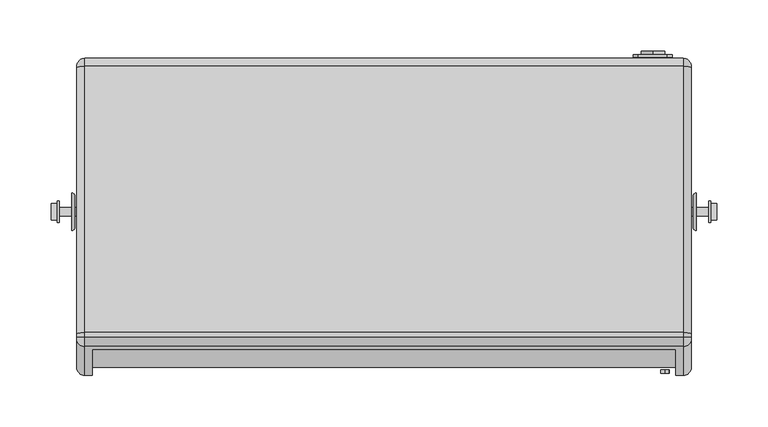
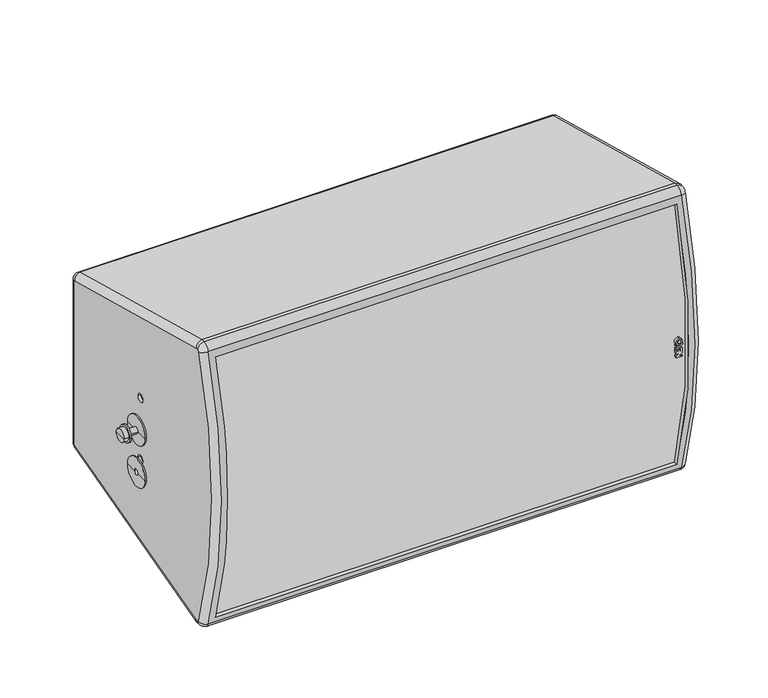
"""IFC4 building model written with IfcOpenShell, lengths in millimetres: proxy geometry, ePS12-HBRK600-SHM : ePS12-HBRK600-SHM."""

from ifc_helpers import new_model, si_unit, point, frame, frame_2d, origin, place, context, project, spatial, polyline, circle_curve, ellipse_curve, trimmed, segment, composite_curve, outline, extrude, source, transform, mapped, element, save
from ifc_brep_helpers import plane_surface, cylinder_surface, revolved_surface, advanced_brep


def generic_models_7c8fd679(model_context):
    return source(origin(), model_context, "Body", "SolidModel", [
        extrude(outline(polyline([(294.5649064, 270.5590531), (294.5649064, 277.8388202), (296.4572736, 277.8388202), (296.4572736, 273.6734899), (299.2323706, 277.8388202), (306.0832803, 277.8388202), (307.4018526, 275.963849), (306.3384755, 274.3643156), (304.9689329, 276.2361557), (301.9353036, 276.2361557), (301.9353036, 274.9818684), (304.2184164, 274.9818684), (304.2184164, 273.3791381), (301.9353036, 273.3791381), (301.9353036, 272.1626349), (304.3423782, 272.1626349), (304.3423782, 271.3626349), (303.8087195, 270.5599046), (299.5403435, 270.5599046), (299.5306519, 275.0099607), (296.5913857, 270.5590531), (294.5649064, 270.5590531)])), frame((0.0, -157.930519, 0.0), z_axis=(0.0, 1.0, 0.0), x_axis=(0.0, 0.0, 1.0)), (0.0, 0.0, 1.0), 3.5087945),
        extrude(outline(polyline([(304.4500346, 270.5590531), (309.9286538, 278.8), (312.1218565, 278.8), (306.6432373, 270.5590531), (304.4500346, 270.5590531)])), frame((0.0, -157.930519, 0.0), z_axis=(0.0, 1.0, 0.0), x_axis=(0.0, 0.0, 1.0)), (0.0, 0.0, 1.0), 3.5087945),
        extrude(outline(polyline([(311.1906687, 270.5590531), (308.8638781, 270.5590531), (308.1160838, 271.8270101), (309.2003096, 273.457904), (311.1906687, 270.5590531)])), frame((0.0, -157.930519, 0.0), z_axis=(0.0, 1.0, 0.0), x_axis=(0.0, 0.0, 1.0)), (0.0, 0.0, 1.0), 3.5087945),
        extrude(outline(composite_curve([segment(trimmed(circle_curve(frame_2d((314.5762799, 274.2298911)), 3.9406238), [point((310.635656, 274.2298911))], [point((318.5169037, 274.2298911))], False, "CARTESIAN"), True, "CONTINUOUS"), segment(trimmed(circle_curve(frame_2d((314.5762799, 274.2298911)), 3.9406238), [point((318.5169037, 274.2298911))], [point((310.635656, 274.2298911))], False, "CARTESIAN"), True, "CONTINUOUS")], self_intersect=False), holes=[composite_curve([segment(trimmed(circle_curve(frame_2d((314.5762799, 274.2298911)), 2.0681078), [point((312.5081721, 274.2298911))], [point((316.6443876, 274.2298911))], True, "CARTESIAN"), True, "CONTINUOUS"), segment(trimmed(circle_curve(frame_2d((314.5762799, 274.2298911)), 2.0681078), [point((316.6443876, 274.2298911))], [point((312.5081721, 274.2298911))], True, "CARTESIAN"), True, "CONTINUOUS")], self_intersect=False)]), frame((0.0, -157.930519, 0.0), z_axis=(0.0, 1.0, 0.0), x_axis=(0.0, 0.0, 1.0)), (0.0, 0.0, 1.0), 3.5087945),
        extrude(outline(composite_curve([segment(trimmed(circle_curve(frame_2d((336.5012591, 262.5)), 11.4515227), [point((347.9527818, 262.5))], [point((325.0497365, 262.5))], False, "CARTESIAN"), True, "CONTINUOUS"), segment(trimmed(circle_curve(frame_2d((336.5012591, 262.5)), 11.4515227), [point((325.0497365, 262.5))], [point((347.9527818, 262.5))], False, "CARTESIAN"), True, "CONTINUOUS")], self_intersect=False), holes=[composite_curve([segment(trimmed(circle_curve(frame_2d((336.5012591, 262.5)), 5.0), [point((341.5012591, 262.5))], [point((331.5012591, 262.5))], True, "CARTESIAN"), True, "CONTINUOUS"), segment(trimmed(circle_curve(frame_2d((336.5012591, 262.5)), 5.0), [point((331.5012591, 262.5))], [point((341.5012591, 262.5))], True, "CARTESIAN"), True, "CONTINUOUS")], self_intersect=False)]), frame((0.0, 153.5947354, 0.0), z_axis=(0.0, 1.0, 0.0), x_axis=(0.0, 0.0, 1.0)), (0.0, 0.0, 1.0), 3.4052646),
        extrude(outline(composite_curve([segment(trimmed(circle_curve(frame_2d((276.5012591, 262.5)), 11.4515227), [point((287.9527818, 262.5))], [point((265.0497365, 262.5))], False, "CARTESIAN"), True, "CONTINUOUS"), segment(trimmed(circle_curve(frame_2d((276.5012591, 262.5)), 11.4515227), [point((265.0497365, 262.5))], [point((287.9527818, 262.5))], False, "CARTESIAN"), True, "CONTINUOUS")], self_intersect=False), holes=[composite_curve([segment(trimmed(circle_curve(frame_2d((276.5012591, 262.5)), 5.0), [point((281.5012591, 262.5))], [point((271.5012591, 262.5))], True, "CARTESIAN"), True, "CONTINUOUS"), segment(trimmed(circle_curve(frame_2d((276.5012591, 262.5)), 5.0), [point((271.5012591, 262.5))], [point((281.5012591, 262.5))], True, "CARTESIAN"), True, "CONTINUOUS")], self_intersect=False)]), frame((0.0, 153.5947354, 0.0), z_axis=(0.0, 1.0, 0.0), x_axis=(0.0, 0.0, 1.0)), (0.0, 0.0, 1.0), 3.4052646),
        extrude(outline(composite_curve([segment(polyline([(359.5012591, 243.5), (253.5012591, 243.5)]), True, "CONTINUOUS"), segment(trimmed(circle_curve(frame_2d((253.5012591, 248.5)), 5.0), [point((253.5012591, 243.5))], [point((248.5012591, 248.5))], False, "CARTESIAN"), True, "CONTINUOUS"), segment(polyline([(248.5012591, 248.5), (248.5012591, 276.5)]), True, "CONTINUOUS"), segment(trimmed(circle_curve(frame_2d((253.5012591, 276.5)), 5.0), [point((248.5012591, 276.5))], [point((253.5012591, 281.5))], False, "CARTESIAN"), True, "CONTINUOUS"), segment(polyline([(253.5012591, 281.5), (359.5012591, 281.5)]), True, "CONTINUOUS"), segment(trimmed(circle_curve(frame_2d((359.5012591, 276.5)), 5.0), [point((359.5012591, 281.5))], [point((364.5012591, 276.5))], False, "CARTESIAN"), True, "CONTINUOUS"), segment(polyline([(364.5012591, 276.5), (364.5012591, 248.5)]), True, "CONTINUOUS"), segment(trimmed(circle_curve(frame_2d((359.5012591, 248.5)), 5.0), [point((364.5012591, 248.5))], [point((359.5012591, 243.5))], False, "CARTESIAN"), True, "CONTINUOUS")], self_intersect=False)), frame((0.0, 151.0947354, 0.0), z_axis=(0.0, 1.0, 0.0), x_axis=(0.0, 0.0, 1.0)), (0.0, 0.0, 1.0), 2.5),
        advanced_brep(
        [(-300.0, 140.4698959, 413.9494573), (-300.0, 141.9522578, 412.0176057), (-300.0, 141.9522578, 200.9849126), (-300.0, 140.4698959, 199.0530609), (-300.0, -119.1009622, 129.5012591), (-300.0, -122.3259262, 129.5012591), (-300.0, -124.2280348, 130.8832113), (-300.0, -124.2280348, 482.119307), (-300.0, -122.3259262, 483.5012591), (-300.0, -119.1009622, 483.5012591), (-300.0, -5.0, 306.5012591), (-300.0, 5.0, 306.5012591), (-300.0, -5.0, 266.5012591), (-300.0, 5.0, 266.5012591), (-300.0, -5.0, 346.5012591), (-300.0, 5.0, 346.5012591), (300.0, 141.9522578, 412.0176057), (300.0, 140.4698959, 413.9494573), (300.0, -119.1009622, 483.5012591), (300.0, -122.3259262, 483.5012591), (300.0, -124.2280348, 482.119307), (300.0, -124.2280348, 130.8832113), (300.0, -122.3259262, 129.5012591), (300.0, -119.1009622, 129.5012591), (300.0, 140.4698959, 199.0530609), (300.0, 141.9522578, 200.9849126), (300.0, 5.0, 306.5012591), (300.0, -5.0, 306.5012591), (300.0, 5.0, 266.5012591), (300.0, -5.0, 266.5012591), (300.0, 5.0, 346.5012591), (300.0, -5.0, 346.5012591), (-296.0, 5.0, 306.5012591), (-296.0, -5.0, 306.5012591), (-296.0, 5.0, 266.5012591), (-296.0, -5.0, 266.5012591), (-296.0, 5.0, 346.5012591), (-296.0, -5.0, 346.5012591), (-285.0, -134.3995103, 136.5012591), (-285.0, -129.2156738, 136.5012591), (-285.0, -129.2156738, 476.5012591), (-285.0, -134.3995103, 476.5012591), (285.0, -134.3995103, 476.5012591), (285.0, -129.2156738, 476.5012591), (285.0, -129.2156738, 136.5012591), (285.0, -134.3995103, 136.5012591), (296.0, 5.0, 306.5012591), (296.0, -5.0, 306.5012591), (296.0, 5.0, 266.5012591), (296.0, -5.0, 266.5012591), (296.0, 5.0, 346.5012591), (296.0, -5.0, 346.5012591), (0.0, 145.0, 277.1579769), (0.0, 145.0, 265.8446565), (0.0, 145.0, 347.1579769), (0.0, 145.0, 335.8446565), (-70.0, 145.0, 277.1579769), (-70.0, 145.0, 265.8446565), (0.0, 149.9522578, 265.8446565), (0.0, 149.9522578, 277.1579769), (0.0, 149.9522578, 335.8446565), (0.0, 149.9522578, 347.1579769), (-292.0, 149.9522578, 200.9849126), (-292.0, 149.9522578, 412.0176057), (292.0000078, 149.9522578, 412.0176057), (292.0, 149.9522578, 200.9849126), (-70.0, 149.9522578, 265.8446565), (-70.0, 149.9522578, 277.1579769), (-292.0, 142.5404482, 191.3256543), (292.0, 142.5404482, 191.3256543), (-292.0, -118.0477422, 121.5012591), (292.0, -118.0477422, 121.5012591), (-292.0, -122.3259262, 121.5012591), (292.0, -122.3259262, 121.5012591), (-292.0, -131.8364689, 484.5914982), (-292.0, -131.8364689, 128.4110201), (292.0000037, -131.8364689, 128.4110201), (292.0, -131.8364689, 484.5914982), (-292.0, -118.0477422, 491.5012591), (-292.0, -122.3259262, 491.5012591), (292.0, -122.3259262, 491.5012591), (292.0, -118.0477422, 491.5012591), (-292.0, 142.5404482, 421.676864), (292.0, 142.5404482, 421.676864)],
        [
            (0, 1, circle_curve(frame((-300.0, 139.9522578, 412.0176057), z_axis=(-1.0, 0.0, 0.0), x_axis=(0.0, 1.0, 0.0)), 2.0)),
            (1, 2),
            (2, 3, circle_curve(frame((-300.0, 139.9522578, 200.9849126), z_axis=(-1.0, 0.0, 0.0), x_axis=(0.0, 0.2588190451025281, -0.9659258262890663)), 2.0)),
            (3, 4),
            (4, 5),
            (5, 6, circle_curve(frame((-300.0, -122.3259262, 131.5012591), z_axis=(-1.0, 0.0, 0.0), x_axis=(0.0, -0.9510542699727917, -0.3090239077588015)), 2.0)),
            (6, 7, circle_curve(frame((-300.0, 416.2553714, 306.5012591), z_axis=(-1.0, 0.0, 0.0), x_axis=(0.0, -0.9510542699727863, 0.309023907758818)), 568.2992267)),
            (7, 8, circle_curve(frame((-300.0, -122.3259262, 481.5012591), z_axis=(-1.0, 0.0, 0.0), x_axis=(0.0, 0.0, 1.0)), 2.0)),
            (8, 9),
            (9, 0),
            (10, 11, circle_curve(frame((-300.0, 0.0, 306.5012591), z_axis=(1.0, 0.0, 0.0), x_axis=(0.0, -1.0, 0.0)), 5.0)),
            (11, 10, circle_curve(frame((-300.0, 0.0, 306.5012591), z_axis=(1.0, 0.0, 0.0), x_axis=(0.0, -1.0, 0.0)), 5.0)),
            (12, 13, circle_curve(frame((-300.0, 0.0, 266.5012591), z_axis=(1.0, 0.0, 0.0), x_axis=(0.0, -1.0, 0.0)), 5.0)),
            (13, 12, circle_curve(frame((-300.0, 0.0, 266.5012591), z_axis=(1.0, 0.0, 0.0), x_axis=(0.0, -1.0, 0.0)), 5.0)),
            (14, 15, circle_curve(frame((-300.0, 0.0, 346.5012591), z_axis=(1.0, 0.0, 0.0), x_axis=(0.0, -1.0, 0.0)), 5.0)),
            (15, 14, circle_curve(frame((-300.0, 0.0, 346.5012591), z_axis=(1.0, 0.0, 0.0), x_axis=(0.0, -1.0, 0.0)), 5.0)),
            (16, 17, circle_curve(frame((300.0, 139.9522578, 412.0176057), z_axis=(1.0, 0.0, 0.0), x_axis=(0.0, 1.0, 0.0)), 2.0)),
            (17, 18),
            (18, 19),
            (19, 20, circle_curve(frame((300.0, -122.3259262, 481.5012591), z_axis=(1.0, 0.0, 0.0), x_axis=(0.0, 0.0, 1.0)), 2.0)),
            (20, 21, circle_curve(frame((300.0, 416.2553714, 306.5012591), z_axis=(1.0, 0.0, 0.0), x_axis=(0.0, -0.9510542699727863, 0.309023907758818)), 568.2992267)),
            (21, 22, circle_curve(frame((300.0, -122.3259262, 131.5012591), z_axis=(1.0, 0.0, 0.0), x_axis=(0.0, -0.9510542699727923, -0.3090239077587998)), 2.0)),
            (22, 23),
            (23, 24),
            (24, 25, circle_curve(frame((300.0, 139.9522578, 200.9849126), z_axis=(1.0, 0.0, 0.0), x_axis=(0.0, 0.258819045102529, -0.9659258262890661)), 2.0)),
            (25, 16),
            (26, 27, circle_curve(frame((300.0, 0.0, 306.5012591), z_axis=(-1.0, 0.0, 0.0), x_axis=(0.0, -1.0, 0.0)), 5.0)),
            (27, 26, circle_curve(frame((300.0, 0.0, 306.5012591), z_axis=(-1.0, 0.0, 0.0), x_axis=(0.0, -1.0, 0.0)), 5.0)),
            (28, 29, circle_curve(frame((300.0, 0.0, 266.5012591), z_axis=(-1.0, 0.0, 0.0), x_axis=(0.0, -1.0, 0.0)), 5.0)),
            (29, 28, circle_curve(frame((300.0, 0.0, 266.5012591), z_axis=(-1.0, 0.0, 0.0), x_axis=(0.0, -1.0, 0.0)), 5.0)),
            (30, 31, circle_curve(frame((300.0, 0.0, 346.5012591), z_axis=(-1.0, 0.0, 0.0), x_axis=(0.0, -1.0, 0.0)), 5.0)),
            (31, 30, circle_curve(frame((300.0, 0.0, 346.5012591), z_axis=(-1.0, 0.0, 0.0), x_axis=(0.0, -1.0, 0.0)), 5.0)),
            (32, 33, circle_curve(frame((-296.0, 0.0, 306.5012591), z_axis=(-1.0, 0.0, 0.0), x_axis=(0.0, -1.0, 0.0)), 5.0)),
            (33, 32, circle_curve(frame((-296.0, 0.0, 306.5012591), z_axis=(-1.0, 0.0, 0.0), x_axis=(0.0, -1.0, 0.0)), 5.0)),
            (34, 35, circle_curve(frame((-296.0, 0.0, 266.5012591), z_axis=(-1.0, 0.0, 0.0), x_axis=(0.0, -1.0, 0.0)), 5.0)),
            (35, 34, circle_curve(frame((-296.0, 0.0, 266.5012591), z_axis=(-1.0, 0.0, 0.0), x_axis=(0.0, -1.0, 0.0)), 5.0)),
            (36, 37, circle_curve(frame((-296.0, 0.0, 346.5012591), z_axis=(-1.0, 0.0, 0.0), x_axis=(0.0, -1.0, 0.0)), 5.0)),
            (37, 36, circle_curve(frame((-296.0, 0.0, 346.5012591), z_axis=(-1.0, 0.0, 0.0), x_axis=(0.0, -1.0, 0.0)), 5.0)),
            (32, 11),
            (10, 33),
            (34, 13),
            (12, 35),
            (36, 15),
            (14, 37),
            (38, 39),
            (39, 40, circle_curve(frame((-285.0, 422.7564106, 306.5012591), z_axis=(-1.0, 0.0, 0.0), x_axis=(0.0, 0.0, 1.0)), 577.5579469)),
            (40, 41),
            (41, 38, circle_curve(frame((-285.0, 416.2553714, 306.5012591), z_axis=(1.0, 0.0, 0.0), x_axis=(0.0, 0.0, 1.0)), 576.2992267)),
            (42, 43),
            (43, 44, circle_curve(frame((285.0, 422.7564106, 306.5012591), z_axis=(1.0, 0.0, 0.0), x_axis=(0.0, 0.0, 1.0)), 577.5579469)),
            (44, 45),
            (45, 42, circle_curve(frame((285.0, 416.2553714, 306.5012591), z_axis=(-1.0, 0.0, 0.0), x_axis=(0.0, 0.0, 1.0)), 576.2992267)),
            (46, 47, circle_curve(frame((296.0, 0.0, 306.5012591), z_axis=(1.0, 0.0, 0.0), x_axis=(0.0, -1.0, 0.0)), 5.0)),
            (47, 46, circle_curve(frame((296.0, 0.0, 306.5012591), z_axis=(1.0, 0.0, 0.0), x_axis=(0.0, -1.0, 0.0)), 5.0)),
            (48, 49, circle_curve(frame((296.0, 0.0, 266.5012591), z_axis=(1.0, 0.0, 0.0), x_axis=(0.0, -1.0, 0.0)), 5.0)),
            (49, 48, circle_curve(frame((296.0, 0.0, 266.5012591), z_axis=(1.0, 0.0, 0.0), x_axis=(0.0, -1.0, 0.0)), 5.0)),
            (50, 51, circle_curve(frame((296.0, 0.0, 346.5012591), z_axis=(1.0, 0.0, 0.0), x_axis=(0.0, -1.0, 0.0)), 5.0)),
            (51, 50, circle_curve(frame((296.0, 0.0, 346.5012591), z_axis=(1.0, 0.0, 0.0), x_axis=(0.0, -1.0, 0.0)), 5.0)),
            (47, 27),
            (26, 46),
            (49, 29),
            (28, 48),
            (51, 31),
            (30, 50),
            (52, 53, circle_curve(frame((0.0, 145.0, 271.5013167), z_axis=(0.0, 1.0, 0.0), x_axis=(0.0, 0.0, -1.0)), 5.6566602)),
            (53, 52, circle_curve(frame((0.0, 145.0, 271.5013167), z_axis=(0.0, 1.0, 0.0), x_axis=(0.0, 0.0, -1.0)), 5.6566602)),
            (54, 55, circle_curve(frame((0.0, 145.0, 341.5013167), z_axis=(0.0, 1.0, 0.0), x_axis=(0.0, 0.0, -1.0)), 5.6566602)),
            (55, 54, circle_curve(frame((0.0, 145.0, 341.5013167), z_axis=(0.0, 1.0, 0.0), x_axis=(0.0, 0.0, -1.0)), 5.6566602)),
            (56, 57, circle_curve(frame((-70.0, 145.0, 271.5013167), z_axis=(0.0, 1.0, 0.0), x_axis=(0.0, 0.0, -1.0)), 5.6566602)),
            (57, 56, circle_curve(frame((-70.0, 145.0, 271.5013167), z_axis=(0.0, 1.0, 0.0), x_axis=(0.0, 0.0, -1.0)), 5.6566602)),
            (53, 58),
            (58, 59, circle_curve(frame((0.0, 149.9522578, 271.5013167), z_axis=(0.0, 1.0, 0.0), x_axis=(0.0, 0.0, -1.0)), 5.6566602)),
            (59, 52),
            (59, 58, circle_curve(frame((0.0, 149.9522578, 271.5013167), z_axis=(0.0, 1.0, 0.0), x_axis=(0.0, 0.0, -1.0)), 5.6566602)),
            (55, 60),
            (60, 61, circle_curve(frame((0.0, 149.9522578, 341.5013167), z_axis=(0.0, 1.0, 0.0), x_axis=(0.0, 0.0, -1.0)), 5.6566602)),
            (61, 54),
            (61, 60, circle_curve(frame((0.0, 149.9522578, 341.5013167), z_axis=(0.0, 1.0, 0.0), x_axis=(0.0, 0.0, -1.0)), 5.6566602)),
            (62, 63),
            (63, 64),
            (64, 65),
            (65, 62),
            (66, 67, circle_curve(frame((-70.0, 149.9522578, 271.5013167), z_axis=(0.0, -1.0, 0.0), x_axis=(0.0, 0.0, -1.0)), 5.6566602)),
            (67, 66, circle_curve(frame((-70.0, 149.9522578, 271.5013167), z_axis=(0.0, -1.0, 0.0), x_axis=(0.0, 0.0, -1.0)), 5.6566602)),
            (68, 62, circle_curve(frame((-292.0, 139.9522578, 200.9849126), z_axis=(1.0, 0.0, 0.0), x_axis=(0.0, 0.0, 1.0)), 10.0)),
            (65, 69, circle_curve(frame((292.0, 139.9522578, 200.9849126), z_axis=(-1.0, 0.0, 0.0), x_axis=(0.0, 0.0, 1.0)), 10.0)),
            (69, 68),
            (70, 68),
            (69, 71),
            (71, 70),
            (72, 70),
            (71, 73),
            (73, 72),
            (74, 75, circle_curve(frame((-292.0, 416.2553714, 306.5012591), z_axis=(1.0, 0.0, 0.0), x_axis=(0.0, 0.0, 1.0)), 576.2992267)),
            (75, 76),
            (76, 77, circle_curve(frame((292.0, 416.2553714, 306.5012591), z_axis=(-1.0, 0.0, 0.0), x_axis=(0.0, 0.0, 1.0)), 576.2992267)),
            (77, 74),
            (41, 42),
            (45, 38),
            (78, 79),
            (79, 80),
            (80, 81),
            (81, 78),
            (82, 78),
            (81, 83),
            (83, 82),
            (63, 82, circle_curve(frame((-292.0, 139.9522578, 412.0176057), z_axis=(1.0, 0.0, 0.0), x_axis=(0.0, 0.0, 1.0)), 10.0)),
            (83, 64, circle_curve(frame((292.0, 139.9522578, 412.0176057), z_axis=(-1.0, 0.0, 0.0), x_axis=(0.0, 0.0, 1.0)), 10.0)),
            (56, 67),
            (66, 57),
            (40, 43),
            (39, 44),
            (75, 72, circle_curve(frame((-292.0, -122.3259262, 131.5012591), z_axis=(1.0, 0.0, 0.0), x_axis=(0.0, 0.0, 1.0)), 10.0)),
            (73, 76, circle_curve(frame((292.0, -122.3259262, 131.5012591), z_axis=(-1.0, 0.0, 0.0), x_axis=(0.0, 0.0, 1.0)), 10.0)),
            (79, 74, circle_curve(frame((-292.0, -122.3259262, 481.5012591), z_axis=(1.0, 0.0, 0.0), x_axis=(0.0, 0.0, 1.0)), 10.0)),
            (77, 80, circle_curve(frame((292.0, -122.3259262, 481.5012591), z_axis=(-1.0, 0.0, 0.0), x_axis=(0.0, 0.0, 1.0)), 10.0)),
            (0, 82, circle_curve(frame((-292.0, 140.4698959, 413.9494573), z_axis=(0.0, 0.9659258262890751, -0.2588190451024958), x_axis=(0.0, 0.2588190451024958, 0.9659258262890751)), 8.0)),
            (63, 1, circle_curve(frame((-292.0, 141.9522578, 412.0176057), z_axis=(0.0, 0.0, 1.0), x_axis=(0.0, 1.0, 0.0)), 8.0)),
            (9, 78, ellipse_curve(frame((-292.0, -119.1009622, 483.5012591), z_axis=(0.0, 0.9914448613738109, -0.13052619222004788), x_axis=(0.0, 0.1305261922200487, 0.9914448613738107)), 8.0690317, 8.0)),
            (8, 79, circle_curve(frame((-292.0, -122.3259262, 483.5012591), z_axis=(0.0, 1.0, 0.0), x_axis=(0.0, 0.0, 1.0)), 8.0)),
            (7, 74, circle_curve(frame((-292.0, -124.2280348, 482.119307), z_axis=(0.0, 0.3090239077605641, 0.951054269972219), x_axis=(0.0, -0.951054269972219, 0.3090239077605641)), 8.0)),
            (6, 75, circle_curve(frame((-292.0, -124.2280348, 130.8832113), z_axis=(0.0, -0.3090239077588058, 0.9510542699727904), x_axis=(0.0, -0.9510542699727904, -0.3090239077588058)), 8.0)),
            (5, 72, circle_curve(frame((-292.0, -122.3259262, 129.5012591), z_axis=(0.0, -1.0, 0.0), x_axis=(0.0, 0.0, -1.0)), 8.0)),
            (4, 70, ellipse_curve(frame((-292.0, -119.1009622, 129.5012591), z_axis=(0.0, -0.9914448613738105, -0.13052619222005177), x_axis=(0.0, 0.13052619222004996, -0.9914448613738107)), 8.0690317, 8.0)),
            (3, 68, circle_curve(frame((-292.0, 140.4698959, 199.0530609), z_axis=(0.0, -0.9659258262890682, -0.2588190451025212), x_axis=(0.0, 0.2588190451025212, -0.9659258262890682)), 8.0)),
            (2, 62, circle_curve(frame((-292.0, 141.9522578, 200.9849126), z_axis=(0.0, 0.0, -1.0), x_axis=(0.0, 1.0, 0.0)), 8.0)),
            (83, 17, circle_curve(frame((292.0, 140.4698959, 413.9494573), z_axis=(0.0, 0.9659258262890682, -0.25881904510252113), x_axis=(0.0, 0.25881904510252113, 0.9659258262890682)), 8.0)),
            (16, 64, circle_curve(frame((292.0, 141.9522578, 412.0176057), z_axis=(0.0, 0.0, 1.0), x_axis=(0.0, 1.0, 0.0)), 8.0)),
            (81, 18, ellipse_curve(frame((292.0, -119.1009622, 483.5012591), z_axis=(0.0, 0.9914448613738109, -0.1305261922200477), x_axis=(0.0, 0.13052619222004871, 0.9914448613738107)), 8.0690317, 8.0)),
            (80, 19, circle_curve(frame((292.0, -122.3259262, 483.5012591), z_axis=(0.0, 1.0, 0.0), x_axis=(0.0, 0.0, 1.0)), 8.0)),
            (77, 20, circle_curve(frame((292.0, -124.2280348, 482.119307), z_axis=(0.0, 0.30902390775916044, 0.951054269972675), x_axis=(0.0, -0.951054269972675, 0.30902390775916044)), 8.0)),
            (76, 21, circle_curve(frame((292.0, -124.2280348, 130.8832113), z_axis=(0.0, -0.3090239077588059, 0.9510542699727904), x_axis=(0.0, -0.9510542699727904, -0.3090239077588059)), 8.0)),
            (73, 22, circle_curve(frame((292.0, -122.3259262, 129.5012591), z_axis=(0.0, -0.9999999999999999, 0.0), x_axis=(0.0, 0.0, -0.9999999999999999)), 8.0)),
            (71, 23, ellipse_curve(frame((292.0, -119.1009622, 129.5012591), z_axis=(0.0, -0.9914448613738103, -0.13052619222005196), x_axis=(0.0, 0.13052619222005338, -0.9914448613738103)), 8.0690317, 8.0)),
            (69, 24, circle_curve(frame((292.0, 140.4698959, 199.0530609), z_axis=(0.0, -0.9659258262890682, -0.2588190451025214), x_axis=(0.0, 0.2588190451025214, -0.9659258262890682)), 8.0)),
            (65, 25, circle_curve(frame((292.0, 141.9522578, 200.9849126), z_axis=(0.0, 0.0, -1.0), x_axis=(0.0, 1.0, 0.0)), 8.0)),
        ],
        [
            plane_surface(frame((-300.0, 149.9522578, 194.8288368), z_axis=(-1.0, 0.0, 0.0), x_axis=(0.0, 0.0, -1.0))),
            plane_surface(frame((300.0, 149.9522578, 194.8288368), z_axis=(1.0, 0.0, 0.0), x_axis=(0.0, 0.0, 1.0))),
            plane_surface(frame((-296.0, -5.0, 306.5012591), z_axis=(-1.0, 0.0, 0.0), x_axis=(0.0, 0.0, -1.0))),
            revolved_surface(polyline([(-300.0, -5.0, 306.5012591), (-296.0, -5.0, 306.5012591)]), (-296.0, 0.0, 306.5012591), (-1.0, 0.0, 0.0)),
            revolved_surface(polyline([(-300.0, -5.0, 266.5012591), (-296.0, -5.0, 266.5012591)]), (-300.0, 0.0, 266.5012591), (-1.0, 0.0, 0.0)),
            revolved_surface(polyline([(-300.0, -5.0, 346.5012591), (-296.0, -5.0, 346.5012591)]), (-300.0, 0.0, 346.5012591), (-1.0, 0.0, 0.0)),
            plane_surface(frame((-285.0, -134.3995103, 476.5012591), z_axis=(1.0, 0.0, 0.0), x_axis=(0.0, 1.0, 0.0))),
            plane_surface(frame((285.0, -134.3995103, 476.5012591), z_axis=(-1.0, 0.0, 0.0), x_axis=(0.0, -1.0, 0.0))),
            plane_surface(frame((296.0, -5.0, 306.5012591), z_axis=(1.0, 0.0, 0.0), x_axis=(0.0, 0.0, 1.0))),
            revolved_surface(polyline([(296.0, -5.0, 306.5012591), (300.0, -5.0, 306.5012591)]), (304.0, 0.0, 306.5012591), (-1.0, 0.0, 0.0)),
            revolved_surface(polyline([(296.0, -5.0, 266.5012591), (300.0, -5.0, 266.5012591)]), (300.0, 0.0, 266.5012591), (-1.0, 0.0, 0.0)),
            revolved_surface(polyline([(296.0, -5.0, 346.5012591), (300.0, -5.0, 346.5012591)]), (300.0, 0.0, 346.5012591), (-1.0, 0.0, 0.0)),
            plane_surface(frame((0.0, 145.0, 265.8446565), z_axis=(0.0, 1.0, 0.0), x_axis=(1.0, 0.0, 0.0))),
            revolved_surface(polyline([(0.0, 149.9522578, 265.84465650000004), (0.0, 145.0, 265.84465650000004)]), (0.0, 145.0, 271.5013167), (0.0, 1.0, 0.0)),
            revolved_surface(polyline([(0.0, 149.9522578, 335.84465650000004), (0.0, 145.0, 335.84465650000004)]), (0.0, 157.0, 341.5013167), (0.0, 1.0, 0.0)),
            plane_surface(frame((-300.0, 149.9522578, 412.0176057), z_axis=(0.0, 1.0, 0.0), x_axis=(1.0, 0.0, 0.0))),
            cylinder_surface(frame((300.0, 139.9522578, 200.9849126), z_axis=(-1.0, 0.0, 0.0), x_axis=(0.0, 0.0, 1.0)), 10.0),
            plane_surface(frame((-300.0, 142.5404482, 191.3256543), z_axis=(0.0, 0.2588190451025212, -0.9659258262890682), x_axis=(1.0, 0.0, 0.0))),
            plane_surface(frame((-300.0, -118.0477422, 121.5012591), z_axis=(0.0, 0.0, -1.0), x_axis=(1.0, 0.0, 0.0))),
            cylinder_surface(frame((300.0, 416.2553714, 306.5012591), z_axis=(-1.0, 0.0, 0.0), x_axis=(0.0, 0.0, 1.0)), 576.2992267),
            plane_surface(frame((-300.0, -122.3259262, 491.5012591), z_axis=(0.0, 0.0, 1.0), x_axis=(1.0, 0.0, 0.0))),
            plane_surface(frame((-300.0, -118.0477422, 491.5012591), z_axis=(0.0, 0.2588190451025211, 0.9659258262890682), x_axis=(1.0, 0.0, 0.0))),
            cylinder_surface(frame((300.0, 139.9522578, 412.0176057), z_axis=(-1.0, 0.0, 0.0), x_axis=(0.0, 0.0, 1.0)), 10.0),
            revolved_surface(polyline([(-70.0, 149.9522578, 265.84465650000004), (-70.0, 145.0, 265.84465650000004)]), (-70.0, 157.0, 271.5013167), (0.0, 1.0, 0.0)),
            plane_surface(frame((-285.0, -134.3995103, 476.5012591), z_axis=(0.0, 0.0, -1.0), x_axis=(1.0, 0.0, 0.0))),
            cylinder_surface(frame((285.0, 422.7564106, 306.5012591), z_axis=(1.0, 0.0, 0.0), x_axis=(0.0, 0.0, 1.0)), 577.5579469),
            plane_surface(frame((-285.0, -129.2156738, 136.5012591), z_axis=(0.0, 0.0, 1.0), x_axis=(1.0, 0.0, 0.0))),
            cylinder_surface(frame((300.0, -122.3259262, 131.5012591), z_axis=(-1.0, 0.0, 0.0), x_axis=(0.0, 0.0, 1.0)), 10.0),
            cylinder_surface(frame((300.0, -122.3259262, 481.5012591), z_axis=(-1.0, 0.0, 0.0), x_axis=(0.0, 0.0, 1.0)), 10.0),
            revolved_surface(trimmed(ellipse_curve(frame((-292.0, 141.9522578, 412.0176057), z_axis=(0.0, 0.0, -1.0), x_axis=(0.0, 1.0, 0.0)), 8.0, 8.0), [point((-300.0, 141.9522578, 412.0176057))], [point((-292.0, 149.9522578, 412.0176057))], True, "CARTESIAN"), (-300.0, 139.9522578, 412.0176057), (1.0, 0.0, 0.0)),
            cylinder_surface(frame((-292.0, 140.4698959, 413.9494573), z_axis=(0.0, -0.9659258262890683, 0.25881904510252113), x_axis=(0.0, 0.25881904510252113, 0.9659258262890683)), 8.0),
            cylinder_surface(frame((-292.0, -118.0477422, 483.5012591), z_axis=(0.0, -1.0, 0.0), x_axis=(0.0, 0.0, 1.0)), 8.0),
            revolved_surface(trimmed(ellipse_curve(frame((-292.0, -122.3259262, 483.5012591), z_axis=(0.0, 1.0, 0.0), x_axis=(0.0, 0.0, 1.0)), 8.0, 8.0), [point((-300.0, -122.3259262, 483.5012591))], [point((-292.0, -122.3259262, 491.5012591))], True, "CARTESIAN"), (-300.0, -122.3259262, 481.5012591), (1.0, 0.0, 0.0)),
            revolved_surface(trimmed(ellipse_curve(frame((-292.0, -124.2280348, 482.119307), z_axis=(0.0, 0.3090239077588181, 0.9510542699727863), x_axis=(0.0, -0.9510542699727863, 0.3090239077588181)), 8.0, 8.0), [point((-300.0, -124.2280348, 482.119307))], [point((-292.0, -131.8364689, 484.5914982))], True, "CARTESIAN"), (-300.0, 416.2553714, 306.5012591), (1.0, 0.0, 0.0)),
            revolved_surface(trimmed(ellipse_curve(frame((-292.0, -124.2280348, 130.8832113), z_axis=(0.0, -0.3090239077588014, 0.9510542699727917), x_axis=(0.0, -0.9510542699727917, -0.3090239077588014)), 8.0, 8.0), [point((-300.0, -124.2280348, 130.8832113))], [point((-292.0, -131.8364689, 128.4110201))], True, "CARTESIAN"), (-300.0, -122.3259262, 131.5012591), (1.0, 0.0, 0.0)),
            cylinder_surface(frame((-292.0, -122.3259262, 129.5012591), z_axis=(0.0, 1.0, 0.0), x_axis=(0.0, 0.0, -1.0)), 8.0),
            cylinder_surface(frame((-292.0, -120.1182946, 129.2286658), z_axis=(0.0, 0.9659258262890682, 0.2588190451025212), x_axis=(0.0, 0.2588190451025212, -0.9659258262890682)), 8.0),
            revolved_surface(trimmed(ellipse_curve(frame((-292.0, 140.4698959, 199.0530609), z_axis=(0.0, -0.9659258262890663, -0.25881904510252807), x_axis=(0.0, 0.25881904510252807, -0.9659258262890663)), 8.0, 8.0), [point((-300.0, 140.4698959, 199.0530609))], [point((-292.0, 142.5404482, 191.3256543))], True, "CARTESIAN"), (-300.0, 139.9522578, 200.9849126), (1.0, 0.0, 0.0)),
            cylinder_surface(frame((-292.0, 141.9522578, 200.9849126), z_axis=(0.0, 0.0, 1.0), x_axis=(0.0, 1.0, 0.0)), 8.0),
            revolved_surface(trimmed(ellipse_curve(frame((292.0, 141.9522578, 412.0176057), z_axis=(0.0, 0.0, -1.0), x_axis=(0.0, 1.0, 0.0)), 8.0, 8.0), [point((292.0, 149.9522578, 412.0176057))], [point((300.0, 141.9522578, 412.0176057))], True, "CARTESIAN"), (300.0, 139.9522578, 412.0176057), (1.0, 0.0, 0.0)),
            cylinder_surface(frame((292.0, 140.4698959, 413.9494573), z_axis=(0.0, -0.9659258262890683, 0.2588190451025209), x_axis=(0.0, 0.2588190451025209, 0.9659258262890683)), 8.0),
            cylinder_surface(frame((292.0, -118.0477422, 483.5012591), z_axis=(0.0, -1.0, 0.0), x_axis=(0.0, 0.0, 1.0)), 8.0),
            revolved_surface(trimmed(ellipse_curve(frame((292.0, -122.3259262, 483.5012591), z_axis=(0.0, 1.0, 0.0), x_axis=(0.0, 0.0, 1.0)), 8.0, 8.0), [point((292.0, -122.3259262, 491.5012591))], [point((300.0, -122.3259262, 483.5012591))], True, "CARTESIAN"), (300.0, -122.3259262, 481.5012591), (1.0, 0.0, 0.0)),
            revolved_surface(trimmed(ellipse_curve(frame((292.0, -124.2280348, 482.119307), z_axis=(0.0, 0.3090239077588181, 0.9510542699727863), x_axis=(0.0, -0.9510542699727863, 0.3090239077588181)), 8.0, 8.0), [point((292.0, -131.8364689, 484.5914982))], [point((300.0, -124.2280348, 482.119307))], True, "CARTESIAN"), (300.0, 416.2553714, 306.5012591), (1.0, 0.0, 0.0)),
            revolved_surface(trimmed(ellipse_curve(frame((292.0, -124.2280348, 130.8832113), z_axis=(0.0, -0.30902390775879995, 0.9510542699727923), x_axis=(0.0, -0.9510542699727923, -0.30902390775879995)), 8.0, 8.0), [point((292.0, -131.8364689, 128.4110201))], [point((300.0, -124.2280348, 130.8832113))], True, "CARTESIAN"), (300.0, -122.3259262, 131.5012591), (1.0, 0.0, 0.0)),
            cylinder_surface(frame((292.0, -122.3259262, 129.5012591), z_axis=(0.0, 1.0, 0.0), x_axis=(0.0, 0.0, -1.0)), 8.0),
            cylinder_surface(frame((292.0, -120.1182946, 129.2286658), z_axis=(0.0, 0.9659258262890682, 0.2588190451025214), x_axis=(0.0, 0.2588190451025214, -0.9659258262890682)), 8.0),
            revolved_surface(trimmed(ellipse_curve(frame((292.0, 140.4698959, 199.0530609), z_axis=(0.0, -0.9659258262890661, -0.2588190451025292), x_axis=(0.0, 0.2588190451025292, -0.9659258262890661)), 8.0, 8.0), [point((292.0, 142.5404482, 191.3256543))], [point((300.0, 140.4698959, 199.0530609))], True, "CARTESIAN"), (300.0, 139.9522578, 200.9849126), (1.0, 0.0, 0.0)),
            cylinder_surface(frame((292.0, 141.9522578, 200.9849126), z_axis=(0.0, 0.0, 1.0), x_axis=(0.0, 1.0, 0.0)), 8.0),
        ],
        [
            (0, [[1, 2, 3, 4, 5, 6, 7, 8, 9, 10], [11, 12], [13, 14], [15, 16]]),
            (1, [[17, 18, 19, 20, 21, 22, 23, 24, 25, 26], [27, 28], [29, 30], [31, 32]]),
            (2, [[33, 34]]),
            (2, [[35, 36]]),
            (2, [[37, 38]]),
            (3, [[-33, 39, -11, 40]]),
            (3, [[-34, -40, -12, -39]]),
            (4, [[-35, 41, -13, 42]]),
            (4, [[-36, -42, -14, -41]]),
            (5, [[-37, 43, -15, 44]]),
            (5, [[-38, -44, -16, -43]]),
            (6, [[45, 46, 47, 48]]),
            (7, [[49, 50, 51, 52]]),
            (8, [[53, 54]]),
            (8, [[55, 56]]),
            (8, [[57, 58]]),
            (9, [[-54, 59, -27, 60]]),
            (9, [[-53, -60, -28, -59]]),
            (10, [[-56, 61, -29, 62]]),
            (10, [[-55, -62, -30, -61]]),
            (11, [[-58, 63, -31, 64]]),
            (11, [[-57, -64, -32, -63]]),
            (12, [[65, 66]]),
            (12, [[67, 68]]),
            (12, [[69, 70]]),
            (13, [[-66, 71, 72, 73]]),
            (13, [[-65, -73, 74, -71]]),
            (14, [[-68, 75, 76, 77]]),
            (14, [[-67, -77, 78, -75]]),
            (15, [[79, 80, 81, 82], [-72, -74], [-76, -78], [83, 84]]),
            (16, [[85, -82, 86, 87]]),
            (17, [[88, -87, 89, 90]]),
            (18, [[91, -90, 92, 93]]),
            (19, [[94, 95, 96, 97], [-48, 98, -52, 99]]),
            (20, [[100, 101, 102, 103]]),
            (21, [[104, -103, 105, 106]]),
            (22, [[107, -106, 108, -80]]),
            (23, [[-69, 109, -83, 110]]),
            (23, [[-70, -110, -84, -109]]),
            (24, [[-47, 111, -49, -98]]),
            (25, [[-46, 112, -50, -111]]),
            (26, [[-45, -99, -51, -112]]),
            (27, [[113, -93, 114, -95]]),
            (28, [[115, -97, 116, -101]]),
            (29, [[117, -107, 118, -1]]),
            (30, [[-117, -10, 119, -104]]),
            (31, [[-119, -9, 120, -100]]),
            (32, [[-120, -8, 121, -115]]),
            (33, [[-121, -7, 122, -94]]),
            (34, [[-122, -6, 123, -113]]),
            (35, [[-123, -5, 124, -91]]),
            (36, [[-124, -4, 125, -88]]),
            (37, [[-125, -3, 126, -85]]),
            (38, [[-118, -79, -126, -2]]),
            (39, [[127, -17, 128, -108]]),
            (40, [[-127, -105, 129, -18]]),
            (41, [[-129, -102, 130, -19]]),
            (42, [[-130, -116, 131, -20]]),
            (43, [[-131, -96, 132, -21]]),
            (44, [[-132, -114, 133, -22]]),
            (45, [[-133, -92, 134, -23]]),
            (46, [[-134, -89, 135, -24]]),
            (47, [[-135, -86, 136, -25]]),
            (48, [[-128, -26, -136, -81]]),
        ],
    ),
        advanced_brep(
        [(305.0, 3.972567, 251.5012591), (305.0, 18.442415, 251.5012591), (305.0, -18.442415, 251.5012591), (305.0, -3.972567, 251.5012591), (302.0, 15.442415, 251.5012591), (302.0, -15.442415, 251.5012591), (302.0, 3.972567, 251.5012591), (302.0, -3.972567, 251.5012591)],
        [
            (0, 1),
            (1, 2, circle_curve(frame((305.0, 0.0, 251.5012591), z_axis=(1.0, 0.0, 0.0), x_axis=(0.0, -1.0, 0.0)), 18.442415)),
            (2, 3),
            (3, 0, circle_curve(frame((305.0, 0.0, 251.5012591), z_axis=(-1.0, 0.0, 0.0), x_axis=(0.0, -1.0, 0.0)), 3.972567)),
            (2, 1, circle_curve(frame((305.0, 0.0, 251.5012591), z_axis=(1.0, 0.0, 0.0), x_axis=(0.0, -1.0, 0.0)), 18.442415)),
            (0, 3, circle_curve(frame((305.0, 0.0, 251.5012591), z_axis=(-1.0, 0.0, 0.0), x_axis=(0.0, -1.0, 0.0)), 3.972567)),
            (1, 4, circle_curve(frame((305.0, 15.442415, 251.5012591), z_axis=(0.0, 0.0, 1.0), x_axis=(-1.0, 0.0, 0.0)), 3.0)),
            (4, 5, circle_curve(frame((302.0, 0.0, 251.5012591), z_axis=(1.0, 0.0, 0.0), x_axis=(0.0, -1.0, 0.0)), 15.442415)),
            (5, 2, circle_curve(frame((305.0, -15.442415, 251.5012591), z_axis=(0.0, 0.0, 1.0), x_axis=(-1.0, 0.0, 0.0)), 3.0)),
            (5, 4, circle_curve(frame((302.0, 0.0, 251.5012591), z_axis=(1.0, 0.0, 0.0), x_axis=(0.0, -1.0, 0.0)), 15.442415)),
            (4, 6),
            (6, 7, circle_curve(frame((302.0, 0.0, 251.5012591), z_axis=(1.0, 0.0, 0.0), x_axis=(0.0, -1.0, 0.0)), 3.972567)),
            (7, 5),
            (7, 6, circle_curve(frame((302.0, 0.0, 251.5012591), z_axis=(1.0, 0.0, 0.0), x_axis=(0.0, -1.0, 0.0)), 3.972567)),
            (6, 0),
            (3, 7),
        ],
        [
            plane_surface(frame((305.0, 0.0, 251.5012591), z_axis=(1.0, 0.0, 0.0), x_axis=(0.0, -1.0, 0.0))),
            revolved_surface(trimmed(ellipse_curve(frame((305.0, -15.442415, 251.5012591), z_axis=(0.0, 0.0, 1.0), x_axis=(-1.0, 0.0, 0.0)), 3.0, 3.0), [point((302.0, -15.442415, 251.5012591))], [point((305.0, -18.442415, 251.5012591))], True, "CARTESIAN"), (292.2578639, 0.0, 251.5012591), (1.0, 0.0, 0.0)),
            plane_surface(frame((302.0, 0.0, 251.5012591), z_axis=(-1.0, 0.0, 0.0), x_axis=(0.0, -1.0, 0.0))),
            revolved_surface(polyline([(305.0, -3.972567, 251.5012591), (302.0, -3.972567, 251.5012591)]), (292.2578639, 0.0, 251.5012591), (1.0, 0.0, 0.0)),
        ],
        [
            (0, [[1, 2, 3, 4]]),
            (0, [[-3, 5, -1, 6]]),
            (1, [[7, 8, 9, -2]]),
            (1, [[-9, 10, -7, -5]]),
            (2, [[11, 12, 13, -8]]),
            (2, [[-13, 14, -11, -10]]),
            (3, [[15, -4, 16, -12]]),
            (3, [[-16, -6, -15, -14]]),
        ],
    ),
        advanced_brep(
        [(-305.0, 18.442415, 251.5012591), (-305.0, 3.972567, 251.5012591), (-305.0, -3.972567, 251.5012591), (-305.0, -18.442415, 251.5012591), (-302.0, 15.442415, 251.5012591), (-302.0, -15.442415, 251.5012591), (-302.0, 3.972567, 251.5012591), (-302.0, -3.972567, 251.5012591)],
        [
            (0, 1),
            (1, 2, circle_curve(frame((-305.0, 0.0, 251.5012591), z_axis=(1.0, 0.0, 0.0), x_axis=(0.0, -1.0, 0.0)), 3.972567)),
            (2, 3),
            (3, 0, circle_curve(frame((-305.0, 0.0, 251.5012591), z_axis=(-1.0, 0.0, 0.0), x_axis=(0.0, -1.0, 0.0)), 18.442415)),
            (2, 1, circle_curve(frame((-305.0, 0.0, 251.5012591), z_axis=(1.0, 0.0, 0.0), x_axis=(0.0, -1.0, 0.0)), 3.972567)),
            (0, 3, circle_curve(frame((-305.0, 0.0, 251.5012591), z_axis=(-1.0, 0.0, 0.0), x_axis=(0.0, -1.0, 0.0)), 18.442415)),
            (4, 0, circle_curve(frame((-305.0, 15.442415, 251.5012591), z_axis=(0.0, 0.0, 1.0), x_axis=(1.0, 0.0, 0.0)), 3.0)),
            (3, 5, circle_curve(frame((-305.0, -15.442415, 251.5012591), z_axis=(0.0, 0.0, 1.0), x_axis=(1.0, 0.0, 0.0)), 3.0)),
            (5, 4, circle_curve(frame((-302.0, 0.0, 251.5012591), z_axis=(-1.0, 0.0, 0.0), x_axis=(0.0, -1.0, 0.0)), 15.442415)),
            (4, 5, circle_curve(frame((-302.0, 0.0, 251.5012591), z_axis=(-1.0, 0.0, 0.0), x_axis=(0.0, -1.0, 0.0)), 15.442415)),
            (6, 4),
            (5, 7),
            (7, 6, circle_curve(frame((-302.0, 0.0, 251.5012591), z_axis=(-1.0, 0.0, 0.0), x_axis=(0.0, -1.0, 0.0)), 3.972567)),
            (6, 7, circle_curve(frame((-302.0, 0.0, 251.5012591), z_axis=(-1.0, 0.0, 0.0), x_axis=(0.0, -1.0, 0.0)), 3.972567)),
            (1, 6),
            (7, 2),
        ],
        [
            plane_surface(frame((-305.0, 0.0, 251.5012591), z_axis=(-1.0, 0.0, 0.0), x_axis=(0.0, -1.0, 0.0))),
            revolved_surface(trimmed(ellipse_curve(frame((-305.0, -15.442415, 251.5012591), z_axis=(0.0, 0.0, 1.0), x_axis=(1.0, 0.0, 0.0)), 3.0, 3.0), [point((-305.0, -18.442415, 251.5012591))], [point((-302.0, -15.442415, 251.5012591))], True, "CARTESIAN"), (-292.2578639, 0.0, 251.5012591), (1.0, 0.0, 0.0)),
            plane_surface(frame((-302.0, 0.0, 251.5012591), z_axis=(1.0, 0.0, 0.0), x_axis=(0.0, -1.0, 0.0))),
            revolved_surface(polyline([(-302.0, -3.972567, 251.5012591), (-305.0, -3.972567, 251.5012591)]), (-292.2578639, 0.0, 251.5012591), (1.0, 0.0, 0.0)),
        ],
        [
            (0, [[1, 2, 3, 4]]),
            (0, [[-3, 5, -1, 6]]),
            (1, [[7, -4, 8, 9]]),
            (1, [[-8, -6, -7, 10]]),
            (2, [[11, -9, 12, 13]]),
            (2, [[-12, -10, -11, 14]]),
            (3, [[15, -13, 16, -2]]),
            (3, [[-16, -14, -15, -5]]),
        ],
    ),
        advanced_brep(
        [(305.0, 4.0553577, 306.5012591), (305.0, 18.442415, 306.5012591), (305.0, -18.442415, 306.5012591), (305.0, -4.0553577, 306.5012591), (302.0, 15.442415, 306.5012591), (302.0, -15.442415, 306.5012591), (302.0, 4.0553577, 306.5012591), (302.0, -4.0553577, 306.5012591), (299.0, 4.0553577, 306.5012591), (299.0, -4.0553577, 306.5012591), (299.0, 0.0, 306.5012591), (325.0, 0.0, 306.5012591), (325.0, 8.0750303, 306.5012591), (325.0, -8.0750303, 306.5012591), (319.0, 8.0750303, 306.5012591), (319.0, -8.0750303, 306.5012591), (319.0, 10.555922, 306.5012591), (319.0, -10.555922, 306.5012591), (317.0, 10.555922, 306.5012591), (317.0, -10.555922, 306.5012591), (317.0, 4.0553577, 306.5012591), (317.0, -4.0553577, 306.5012591)],
        [
            (0, 1),
            (1, 2, circle_curve(frame((305.0, 0.0, 306.5012591), z_axis=(1.0, 0.0, 0.0), x_axis=(0.0, -1.0, 0.0)), 18.442415)),
            (2, 3),
            (3, 0, circle_curve(frame((305.0, 0.0, 306.5012591), z_axis=(-1.0, 0.0, 0.0), x_axis=(0.0, -1.0, 0.0)), 4.0553577)),
            (2, 1, circle_curve(frame((305.0, 0.0, 306.5012591), z_axis=(1.0, 0.0, 0.0), x_axis=(0.0, -1.0, 0.0)), 18.442415)),
            (0, 3, circle_curve(frame((305.0, 0.0, 306.5012591), z_axis=(-1.0, 0.0, 0.0), x_axis=(0.0, -1.0, 0.0)), 4.0553577)),
            (1, 4, circle_curve(frame((305.0, 15.442415, 306.5012591), z_axis=(0.0, 0.0, 1.0), x_axis=(-1.0, 0.0, 0.0)), 3.0)),
            (4, 5, circle_curve(frame((302.0, 0.0, 306.5012591), z_axis=(1.0, 0.0, 0.0), x_axis=(0.0, -1.0, 0.0)), 15.442415)),
            (5, 2, circle_curve(frame((305.0, -15.442415, 306.5012591), z_axis=(0.0, 0.0, 1.0), x_axis=(-1.0, 0.0, 0.0)), 3.0)),
            (5, 4, circle_curve(frame((302.0, 0.0, 306.5012591), z_axis=(1.0, 0.0, 0.0), x_axis=(0.0, -1.0, 0.0)), 15.442415)),
            (4, 6),
            (6, 7, circle_curve(frame((302.0, 0.0, 306.5012591), z_axis=(1.0, 0.0, 0.0), x_axis=(0.0, -1.0, 0.0)), 4.0553577)),
            (7, 5),
            (7, 6, circle_curve(frame((302.0, 0.0, 306.5012591), z_axis=(1.0, 0.0, 0.0), x_axis=(0.0, -1.0, 0.0)), 4.0553577)),
            (6, 8),
            (8, 9, circle_curve(frame((299.0, 0.0, 306.5012591), z_axis=(1.0, 0.0, 0.0), x_axis=(0.0, -1.0, 0.0)), 4.0553577)),
            (9, 7),
            (9, 8, circle_curve(frame((299.0, 0.0, 306.5012591), z_axis=(1.0, 0.0, 0.0), x_axis=(0.0, -1.0, 0.0)), 4.0553577)),
            (8, 10),
            (10, 9),
            (11, 12),
            (12, 13, circle_curve(frame((325.0, 0.0, 306.5012591), z_axis=(1.0, 0.0, 0.0), x_axis=(0.0, -1.0, 0.0)), 8.0750303)),
            (13, 11),
            (13, 12, circle_curve(frame((325.0, 0.0, 306.5012591), z_axis=(1.0, 0.0, 0.0), x_axis=(0.0, -1.0, 0.0)), 8.0750303)),
            (12, 14),
            (14, 15, circle_curve(frame((319.0, 0.0, 306.5012591), z_axis=(1.0, 0.0, 0.0), x_axis=(0.0, -1.0, 0.0)), 8.0750303)),
            (15, 13),
            (15, 14, circle_curve(frame((319.0, 0.0, 306.5012591), z_axis=(1.0, 0.0, 0.0), x_axis=(0.0, -1.0, 0.0)), 8.0750303)),
            (14, 16),
            (16, 17, circle_curve(frame((319.0, 0.0, 306.5012591), z_axis=(1.0, 0.0, 0.0), x_axis=(0.0, -1.0, 0.0)), 10.555922)),
            (17, 15),
            (17, 16, circle_curve(frame((319.0, 0.0, 306.5012591), z_axis=(1.0, 0.0, 0.0), x_axis=(0.0, -1.0, 0.0)), 10.555922)),
            (16, 18),
            (18, 19, circle_curve(frame((317.0, 0.0, 306.5012591), z_axis=(1.0, 0.0, 0.0), x_axis=(0.0, -1.0, 0.0)), 10.555922)),
            (19, 17),
            (19, 18, circle_curve(frame((317.0, 0.0, 306.5012591), z_axis=(1.0, 0.0, 0.0), x_axis=(0.0, -1.0, 0.0)), 10.555922)),
            (18, 20),
            (20, 21, circle_curve(frame((317.0, 0.0, 306.5012591), z_axis=(1.0, 0.0, 0.0), x_axis=(0.0, -1.0, 0.0)), 4.0553577)),
            (21, 19),
            (21, 20, circle_curve(frame((317.0, 0.0, 306.5012591), z_axis=(1.0, 0.0, 0.0), x_axis=(0.0, -1.0, 0.0)), 4.0553577)),
            (20, 0),
            (3, 21),
        ],
        [
            plane_surface(frame((305.0, 0.0, 306.5012591), z_axis=(1.0, 0.0, 0.0), x_axis=(0.0, -1.0, 0.0))),
            revolved_surface(trimmed(ellipse_curve(frame((305.0, -15.442415, 306.5012591), z_axis=(0.0, 0.0, 1.0), x_axis=(-1.0, 0.0, 0.0)), 3.0, 3.0), [point((302.0, -15.442415, 306.5012591))], [point((305.0, -18.442415, 306.5012591))], True, "CARTESIAN"), (292.2578639, 0.0, 306.5012591), (1.0, 0.0, 0.0)),
            plane_surface(frame((302.0, 0.0, 306.5012591), z_axis=(-1.0, 0.0, 0.0), x_axis=(0.0, -1.0, 0.0))),
            cylinder_surface(frame((292.2578639, 0.0, 306.5012591), z_axis=(1.0, 0.0, 0.0), x_axis=(0.0, -1.0, 0.0)), 4.0553577),
            plane_surface(frame((299.0, 0.0, 306.5012591), z_axis=(-1.0, 0.0, 0.0), x_axis=(0.0, -1.0, 0.0))),
            plane_surface(frame((325.0, 0.0, 306.5012591), z_axis=(1.0, 0.0, 0.0), x_axis=(0.0, -1.0, 0.0))),
            cylinder_surface(frame((292.2578639, 0.0, 306.5012591), z_axis=(1.0, 0.0, 0.0), x_axis=(0.0, -1.0, 0.0)), 8.0750303),
            plane_surface(frame((319.0, 0.0, 306.5012591), z_axis=(1.0, 0.0, 0.0), x_axis=(0.0, -1.0, 0.0))),
            cylinder_surface(frame((292.2578639, 0.0, 306.5012591), z_axis=(1.0, 0.0, 0.0), x_axis=(0.0, -1.0, 0.0)), 10.555922),
            plane_surface(frame((317.0, 0.0, 306.5012591), z_axis=(-1.0, 0.0, 0.0), x_axis=(0.0, -1.0, 0.0))),
        ],
        [
            (0, [[1, 2, 3, 4]]),
            (0, [[-3, 5, -1, 6]]),
            (1, [[7, 8, 9, -2]]),
            (1, [[-9, 10, -7, -5]]),
            (2, [[11, 12, 13, -8]]),
            (2, [[-13, 14, -11, -10]]),
            (3, [[15, 16, 17, -12]]),
            (3, [[-17, 18, -15, -14]]),
            (4, [[19, 20, -16]]),
            (4, [[-20, -19, -18]]),
            (5, [[21, 22, 23]]),
            (5, [[-23, 24, -21]]),
            (6, [[25, 26, 27, -22]]),
            (6, [[-27, 28, -25, -24]]),
            (7, [[29, 30, 31, -26]]),
            (7, [[-31, 32, -29, -28]]),
            (8, [[33, 34, 35, -30]]),
            (8, [[-35, 36, -33, -32]]),
            (9, [[37, 38, 39, -34]]),
            (9, [[-39, 40, -37, -36]]),
            (3, [[41, -4, 42, -38]]),
            (3, [[-42, -6, -41, -40]]),
        ],
    ),
        advanced_brep(
        [(-305.0, 18.442415, 306.5012591), (-305.0, 4.0553577, 306.5012591), (-305.0, -4.0553577, 306.5012591), (-305.0, -18.442415, 306.5012591), (-302.0, 15.442415, 306.5012591), (-302.0, -15.442415, 306.5012591), (-302.0, 4.0553577, 306.5012591), (-302.0, -4.0553577, 306.5012591), (-299.0, 4.0553577, 306.5012591), (-299.0, -4.0553577, 306.5012591), (-299.0, 0.0, 306.5012591), (-325.0, 8.0750303, 306.5012591), (-325.0, 0.0, 306.5012591), (-325.0, -8.0750303, 306.5012591), (-319.0, 8.0750303, 306.5012591), (-319.0, -8.0750303, 306.5012591), (-319.0, 10.555922, 306.5012591), (-319.0, -10.555922, 306.5012591), (-317.0, 10.555922, 306.5012591), (-317.0, -10.555922, 306.5012591), (-317.0, 4.0553577, 306.5012591), (-317.0, -4.0553577, 306.5012591)],
        [
            (0, 1),
            (1, 2, circle_curve(frame((-305.0, 0.0, 306.5012591), z_axis=(1.0, 0.0, 0.0), x_axis=(0.0, -1.0, 0.0)), 4.0553577)),
            (2, 3),
            (3, 0, circle_curve(frame((-305.0, 0.0, 306.5012591), z_axis=(-1.0, 0.0, 0.0), x_axis=(0.0, -1.0, 0.0)), 18.442415)),
            (2, 1, circle_curve(frame((-305.0, 0.0, 306.5012591), z_axis=(1.0, 0.0, 0.0), x_axis=(0.0, -1.0, 0.0)), 4.0553577)),
            (0, 3, circle_curve(frame((-305.0, 0.0, 306.5012591), z_axis=(-1.0, 0.0, 0.0), x_axis=(0.0, -1.0, 0.0)), 18.442415)),
            (4, 0, circle_curve(frame((-305.0, 15.442415, 306.5012591), z_axis=(0.0, 0.0, 1.0), x_axis=(1.0, 0.0, 0.0)), 3.0)),
            (3, 5, circle_curve(frame((-305.0, -15.442415, 306.5012591), z_axis=(0.0, 0.0, 1.0), x_axis=(1.0, 0.0, 0.0)), 3.0)),
            (5, 4, circle_curve(frame((-302.0, 0.0, 306.5012591), z_axis=(-1.0, 0.0, 0.0), x_axis=(0.0, -1.0, 0.0)), 15.442415)),
            (4, 5, circle_curve(frame((-302.0, 0.0, 306.5012591), z_axis=(-1.0, 0.0, 0.0), x_axis=(0.0, -1.0, 0.0)), 15.442415)),
            (6, 4),
            (5, 7),
            (7, 6, circle_curve(frame((-302.0, 0.0, 306.5012591), z_axis=(-1.0, 0.0, 0.0), x_axis=(0.0, -1.0, 0.0)), 4.0553577)),
            (6, 7, circle_curve(frame((-302.0, 0.0, 306.5012591), z_axis=(-1.0, 0.0, 0.0), x_axis=(0.0, -1.0, 0.0)), 4.0553577)),
            (8, 6),
            (7, 9),
            (9, 8, circle_curve(frame((-299.0, 0.0, 306.5012591), z_axis=(-1.0, 0.0, 0.0), x_axis=(0.0, -1.0, 0.0)), 4.0553577)),
            (8, 9, circle_curve(frame((-299.0, 0.0, 306.5012591), z_axis=(-1.0, 0.0, 0.0), x_axis=(0.0, -1.0, 0.0)), 4.0553577)),
            (10, 8),
            (9, 10),
            (11, 12),
            (12, 13),
            (13, 11, circle_curve(frame((-325.0, 0.0, 306.5012591), z_axis=(-1.0, 0.0, 0.0), x_axis=(0.0, -1.0, 0.0)), 8.0750303)),
            (11, 13, circle_curve(frame((-325.0, 0.0, 306.5012591), z_axis=(-1.0, 0.0, 0.0), x_axis=(0.0, -1.0, 0.0)), 8.0750303)),
            (14, 11),
            (13, 15),
            (15, 14, circle_curve(frame((-319.0, 0.0, 306.5012591), z_axis=(-1.0, 0.0, 0.0), x_axis=(0.0, -1.0, 0.0)), 8.0750303)),
            (14, 15, circle_curve(frame((-319.0, 0.0, 306.5012591), z_axis=(-1.0, 0.0, 0.0), x_axis=(0.0, -1.0, 0.0)), 8.0750303)),
            (16, 14),
            (15, 17),
            (17, 16, circle_curve(frame((-319.0, 0.0, 306.5012591), z_axis=(-1.0, 0.0, 0.0), x_axis=(0.0, -1.0, 0.0)), 10.555922)),
            (16, 17, circle_curve(frame((-319.0, 0.0, 306.5012591), z_axis=(-1.0, 0.0, 0.0), x_axis=(0.0, -1.0, 0.0)), 10.555922)),
            (18, 16),
            (17, 19),
            (19, 18, circle_curve(frame((-317.0, 0.0, 306.5012591), z_axis=(-1.0, 0.0, 0.0), x_axis=(0.0, -1.0, 0.0)), 10.555922)),
            (18, 19, circle_curve(frame((-317.0, 0.0, 306.5012591), z_axis=(-1.0, 0.0, 0.0), x_axis=(0.0, -1.0, 0.0)), 10.555922)),
            (20, 18),
            (19, 21),
            (21, 20, circle_curve(frame((-317.0, 0.0, 306.5012591), z_axis=(-1.0, 0.0, 0.0), x_axis=(0.0, -1.0, 0.0)), 4.0553577)),
            (20, 21, circle_curve(frame((-317.0, 0.0, 306.5012591), z_axis=(-1.0, 0.0, 0.0), x_axis=(0.0, -1.0, 0.0)), 4.0553577)),
            (1, 20),
            (21, 2),
        ],
        [
            plane_surface(frame((-305.0, 0.0, 306.5012591), z_axis=(-1.0, 0.0, 0.0), x_axis=(0.0, -1.0, 0.0))),
            revolved_surface(trimmed(ellipse_curve(frame((-305.0, -15.442415, 306.5012591), z_axis=(0.0, 0.0, 1.0), x_axis=(1.0, 0.0, 0.0)), 3.0, 3.0), [point((-305.0, -18.442415, 306.5012591))], [point((-302.0, -15.442415, 306.5012591))], True, "CARTESIAN"), (-292.2578639, 0.0, 306.5012591), (1.0, 0.0, 0.0)),
            plane_surface(frame((-302.0, 0.0, 306.5012591), z_axis=(1.0, 0.0, 0.0), x_axis=(0.0, -1.0, 0.0))),
            cylinder_surface(frame((-292.2578639, 0.0, 306.5012591), z_axis=(1.0, 0.0, 0.0), x_axis=(0.0, -1.0, 0.0)), 4.0553577),
            plane_surface(frame((-299.0, 0.0, 306.5012591), z_axis=(1.0, 0.0, 0.0), x_axis=(0.0, -1.0, 0.0))),
            plane_surface(frame((-325.0, 0.0, 306.5012591), z_axis=(-1.0, 0.0, 0.0), x_axis=(0.0, -1.0, 0.0))),
            cylinder_surface(frame((-292.2578639, 0.0, 306.5012591), z_axis=(1.0, 0.0, 0.0), x_axis=(0.0, -1.0, 0.0)), 8.0750303),
            plane_surface(frame((-319.0, 0.0, 306.5012591), z_axis=(-1.0, 0.0, 0.0), x_axis=(0.0, -1.0, 0.0))),
            cylinder_surface(frame((-292.2578639, 0.0, 306.5012591), z_axis=(1.0, 0.0, 0.0), x_axis=(0.0, -1.0, 0.0)), 10.555922),
            plane_surface(frame((-317.0, 0.0, 306.5012591), z_axis=(1.0, 0.0, 0.0), x_axis=(0.0, -1.0, 0.0))),
        ],
        [
            (0, [[1, 2, 3, 4]]),
            (0, [[-3, 5, -1, 6]]),
            (1, [[7, -4, 8, 9]]),
            (1, [[-8, -6, -7, 10]]),
            (2, [[11, -9, 12, 13]]),
            (2, [[-12, -10, -11, 14]]),
            (3, [[15, -13, 16, 17]]),
            (3, [[-16, -14, -15, 18]]),
            (4, [[19, -17, 20]]),
            (4, [[-20, -18, -19]]),
            (5, [[21, 22, 23]]),
            (5, [[-22, -21, 24]]),
            (6, [[25, -23, 26, 27]]),
            (6, [[-26, -24, -25, 28]]),
            (7, [[29, -27, 30, 31]]),
            (7, [[-30, -28, -29, 32]]),
            (8, [[33, -31, 34, 35]]),
            (8, [[-34, -32, -33, 36]]),
            (9, [[37, -35, 38, 39]]),
            (9, [[-38, -36, -37, 40]]),
            (3, [[41, -39, 42, -2]]),
            (3, [[-42, -40, -41, -5]]),
        ],
    ),
    ])


if __name__ == "__main__":
    model = new_model("IFC4")
    model_context = context("Model", 3, world=origin())
    ifc_project = project(units=[si_unit("LENGTHUNIT", "METRE", prefix="MILLI")], contexts=[model_context])
    site = spatial("IfcSite", under=ifc_project)
    building = spatial("IfcBuilding", under=site)
    placement = place(None, origin())
    generic_models_shape = generic_models_7c8fd679(model_context)
    element("IfcBuildingElementProxy", 1, Name="ePS12-HBRK600-SHM : ePS12-HBRK600-SHM", ObjectType="ePS12-HBRK600-SHM : ePS12-HBRK600-SHM", at=placement, inside=building, context=model_context, shape_type="MappedRepresentation", body=[
        mapped(generic_models_shape, transform((0.0, 0.0, 0.0), x_axis=(1.0, 0.0, 0.0), y_axis=(0.0, 1.0, 0.0), z_axis=(0.0, 0.0, 1.0))),
    ])
    save(model, "model.ifc")
